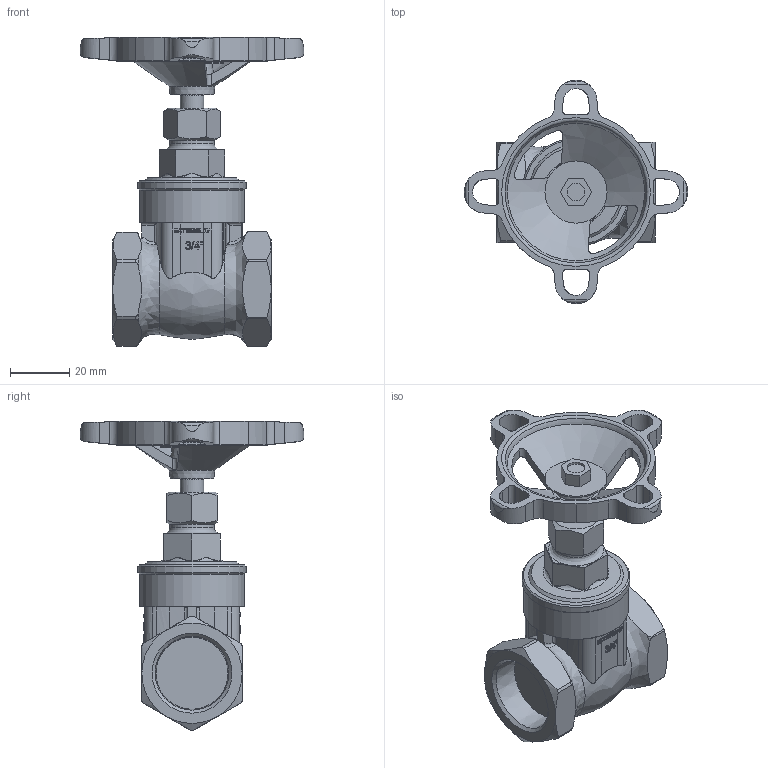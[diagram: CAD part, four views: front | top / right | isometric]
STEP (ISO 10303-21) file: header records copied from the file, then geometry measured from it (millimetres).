
FILE_DESCRIPTION((''),'2;1');
FILE_NAME('P:\Fastrack\53972_CRANE 3D\Gate Valves\Work Space\Handwheel\33X_3-4in\33X_3-4in.stp','2011-03-10T13:53:35',('btaylor'),(''),'Autodesk Inventor 2008','Autodesk Inventor 2008','');
FILE_SCHEMA(('AUTOMOTIVE_DESIGN { 1 0 10303 214 1 1 1 1 }'));
Length unit declared in the file: millimetre
Products named in the file (1): 33X_3-4in
Bounding box: 75.5 x 75.5 x 104.52 mm (x, y, z)
Volume: 78492.1 mm3; surface area: 23329.5 mm2
Topology: 1 solids, 1 shells, 737 faces, 2017 edges, 1286 vertices
Faces by surface type: plane 294, bspline 247, cylinder 141, torus 29, cone 26
Full cylindrical faces by diameter (mm): 6 x1, 7.9 x1, 15 x1, 21 x1, 35.5 x1, 36.5 x1
Entity records: 67471 total; most frequent: CARTESIAN_POINT 50728, ORIENTED_EDGE 3872, DIRECTION 2376, EDGE_CURVE 1936, VERTEX_POINT 1269, AXIS2_PLACEMENT_3D 841, EDGE_LOOP 825, B_SPLINE_CURVE_WITH_KNOTS 820
